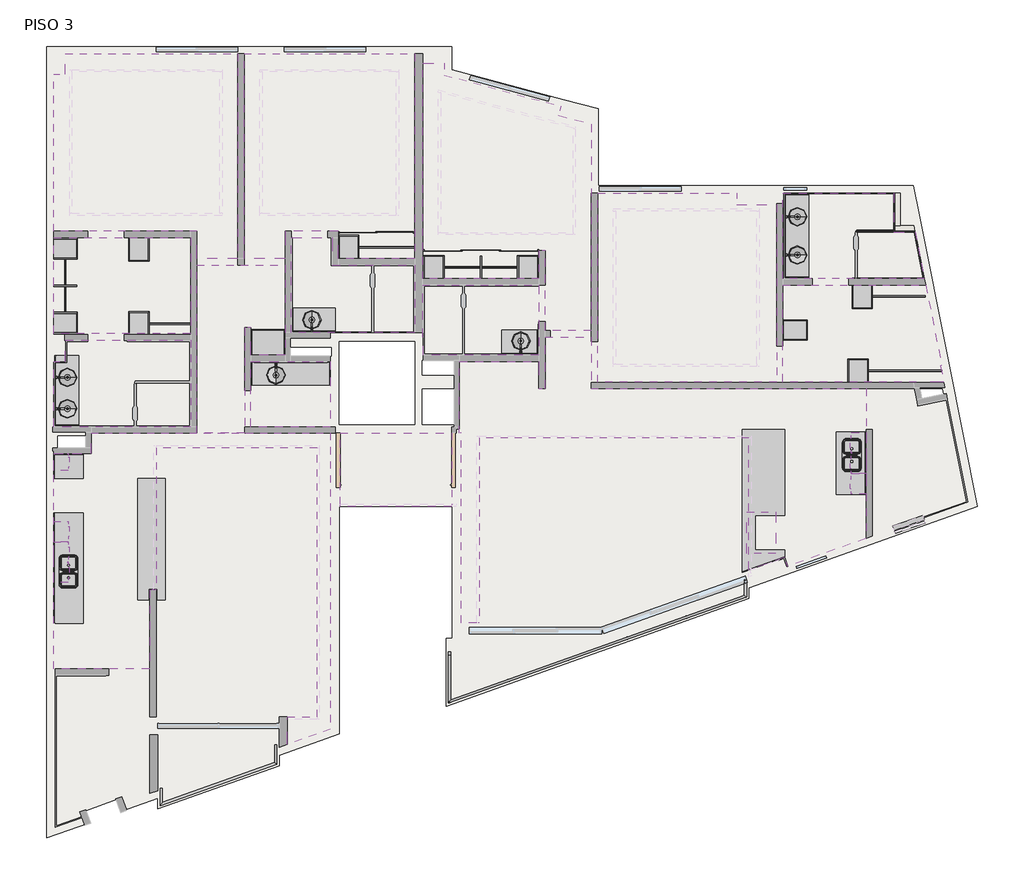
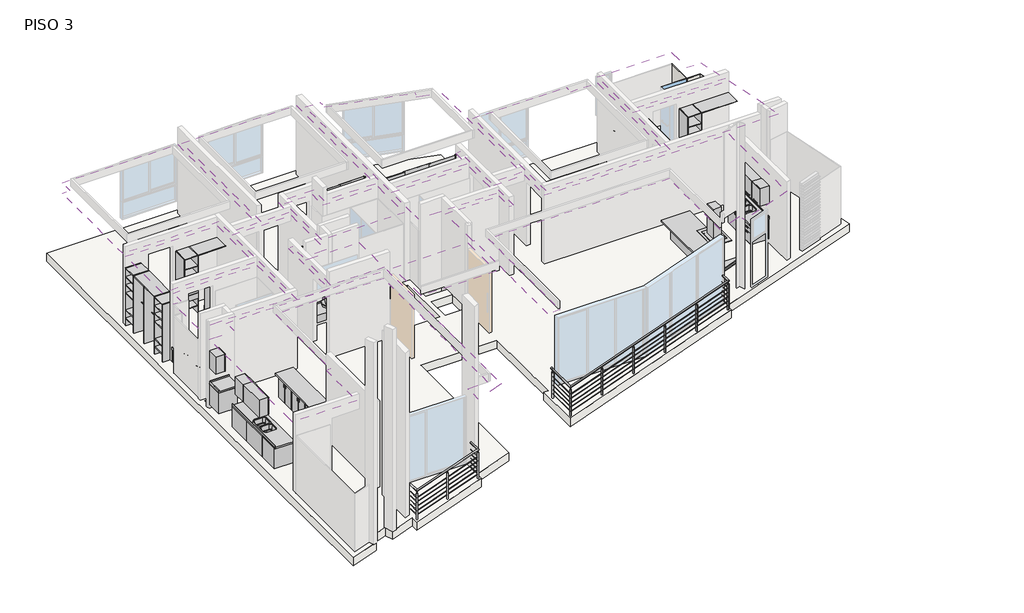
# One storey, part 3 of 3: 36 furniture elements, 17 flow terminals, 15 coverings, 7 walls, 2 railings, 1 proxy, 1 slab, 1 window.
"""IFC4 building model written with IfcOpenShell, lengths in millimetres."""

from ifc_helpers import new_model, si_unit, frame, origin, place, context, project, spatial, polyline, outline, extrude, faceted_brep, transform, mapped, element, save
from components import specialty_equipment_230eec82, flow_terminal_a2814962, flow_terminal_5cc0e8a1, flow_terminal_a7820e30, flow_terminal_68213279, flow_terminal_dbe0ad42, furniture_e49e34d4, furniture_d9654537, furniture_a8ddcfd3, furniture_af3adfe5, furniture_695d730f, furniture_6c499260, furniture_030b6b42, furniture_772ddd76, furniture_370_x_600_x_320_mm_8a8752ee, furniture_3900_mm_204c5ad0, furniture_450_x_600_x_320_mm_b980701e, furniture_450_x_600_x_320_mm_602578f4, furniture_550_mm_c334357f, furniture_620_mm_497b6e52, furniture_620_mm_84e951ed, furniture_680_mm_c6045463, furniture_7700_mm_prof_40_e6cee792, furniture_820_mm_546e8a10, furniture_900_mm_f7b05b38, furniture_900_x_600_x_320_mm_ed7ff752, furniture_900_x_600_x_320_mm_dd102760, cl05_4e4fac43, cl2_closet_fc385fcd, cl3_closet_a3c0aced, cl4_a_closet_81bb138c, cl4b_closet_0a5770e6, cl4c_closet_576a11e8, cl6a_closet_3e36db71, cl6b_closet_5e1df598, cl6c_closet_d8154fa9, cubierta6_cubierta_6109c4be, cubierta7_cubierta_ab978bd7, railing_f92ae113, railing_e85b9a55, window_608fdc28

model = new_model("IFC4")

# Units and contexts
model_context = context("Model", 3, world=origin())
ifc_project = project(units=[si_unit("LENGTHUNIT", "METRE", prefix="MILLI")], contexts=[model_context])

# Site, building, storey
site = spatial("IfcSite", under=ifc_project)
building = spatial("IfcBuilding", under=site)
storey = spatial("IfcBuildingStorey", under=building, Name="PISO 3", Elevation=9000.0)

# Proxy
placement = place(None, origin())
specialty_equipment_shape = specialty_equipment_230eec82(model_context)
element("IfcBuildingElementProxy", 1, Name="Campana rectangular - isla : Campana rectangular - isla", ObjectType="Campana rectangular - isla : Campana rectangular - isla", at=placement, inside=storey, context=model_context, shape_type="MappedRepresentation", body=[
    mapped(specialty_equipment_shape, transform((49717.8559119, 27525.7129416, 9250.0), x_axis=(0.0, 1.0, 0.0), y_axis=(-1.0, 0.0, 0.0), z_axis=(0.0, 0.0, 1.0))),
])

# Coverings
element("IfcCovering", 2, ObjectType="Plafond Tablaroca", at=placement, inside=storey, context=model_context, shape_type="SweptSolid", body=[
    extrude(outline(polyline([(34143.8589874, 34168.9785701), (34143.8589874, 37625.4026232), (34398.8589874, 37625.4026232), (34398.8589874, 38080.4026232), (38194.5300226, 38080.4026232), (38194.5300226, 33568.9784839), (37294.5300226, 33568.9784839), (37294.5300226, 34168.9785701), (34143.8589874, 34168.9785701)]), holes=[polyline([(34543.8589874, 34568.9785701), (37794.5300226, 34568.9785701), (37794.5300226, 37680.4026232), (34543.8589874, 37680.4026232), (34543.8589874, 34568.9785701)])]), frame((0.0, 0.0, 11400.0), z_axis=(0.0, 0.0, 1.0), x_axis=(1.0, 0.0, 0.0)), (0.0, 0.0, 1.0), 52.7),
])
element("IfcCovering", 3, ObjectType="Plafond Tablaroca", at=placement, inside=storey, context=model_context, shape_type="SweptSolid", body=[
    extrude(outline(polyline([(38334.5300226, 38080.4026232), (42084.5059119, 38080.4026232), (42084.5059119, 33568.9784839), (40409.5059119, 33568.9784839), (40409.5059119, 34168.9785701), (39234.5300226, 34168.9785701), (39234.5300226, 33568.9784839), (38334.5300226, 33568.9784839), (38334.5300226, 38080.4026232)]), holes=[polyline([(38734.5300226, 37680.4026232), (38734.5300226, 34568.9785701), (41684.5059119, 34568.9785701), (41684.5059119, 37680.4026232), (38734.5300226, 37680.4026232)])]), frame((0.0, 0.0, 11400.0), z_axis=(0.0, 0.0, 1.0), x_axis=(1.0, 0.0, 0.0)), (0.0, 0.0, 1.0), 52.7),
])
element("IfcCovering", 4, ObjectType="Plafond Tablaroca", at=placement, inside=storey, context=model_context, shape_type="SweptSolid", body=[
    extrude(outline(polyline([(34903.8589874, 29864.010184), (34143.8589874, 29864.010184), (34143.8589874, 31298.9733508), (34398.8589874, 31298.9733508), (34398.8589874, 31768.9733508), (37154.5300226, 31768.9733508), (37154.5300226, 29864.010184), (34903.8589874, 29864.010184)])), frame((0.0, 0.0, 11400.0), z_axis=(0.0, 0.0, 1.0), x_axis=(1.0, 0.0, 0.0)), (0.0, 0.0, 1.0), 52.7),
])
element("IfcCovering", 5, ObjectType="Plafond Tablaroca", at=placement, inside=storey, context=model_context, shape_type="SweptSolid", body=[
    extrude(outline(polyline([(37154.5300226, 31913.9733508), (34143.8589874, 31913.9733508), (34143.8589874, 34028.9785701), (37154.5300226, 34028.9785701), (37154.5300226, 31913.9733508)])), frame((0.0, 0.0, 11400.0), z_axis=(0.0, 0.0, 1.0), x_axis=(1.0, 0.0, 0.0)), (0.0, 0.0, 1.0), 52.7),
])
element("IfcCovering", 6, ObjectType="Plafond Tablaroca", at=placement, inside=storey, context=model_context, shape_type="SweptSolid", body=[
    extrude(outline(polyline([(42084.5059119, 31933.9733508), (40329.5059119, 31933.9733508), (39374.5300226, 31933.9733508), (39374.5300226, 34028.9785701), (40269.5059119, 34028.9785701), (40269.5059119, 33428.9784839), (42084.5059119, 33428.9784839), (42084.5059119, 31933.9733508)])), frame((0.0, 0.0, 11400.0), z_axis=(0.0, 0.0, 1.0), x_axis=(1.0, 0.0, 0.0)), (0.0, 0.0, 1.0), 52.7),
])
element("IfcCovering", 7, ObjectType="Plafond Tablaroca", at=placement, inside=storey, context=model_context, shape_type="SweptSolid", body=[
    extrude(outline(polyline([(39234.5300226, 33428.9784839), (39234.5300226, 31444.0104769), (38484.5059119, 31444.0104769), (38484.5059119, 32044.0104769), (38344.5059119, 32044.0104769), (38344.5059119, 29724.010184), (37294.5300226, 29724.010184), (37294.5300226, 33428.9784839), (39234.5300226, 33428.9784839)])), frame((0.0, 0.0, 11400.0), z_axis=(0.0, 0.0, 1.0), x_axis=(1.0, 0.0, 0.0)), (0.0, 0.0, 1.0), 52.7),
])
element("IfcCovering", 8, ObjectType="Plafond Tablaroca", at=placement, inside=storey, context=model_context, shape_type="SweptSolid", body=[
    extrude(outline(polyline([(40234.5059119, 31304.0104769), (40234.5059119, 29864.010184), (38484.5059119, 29864.010184), (38484.5059119, 31304.0104769), (39294.5300226, 31304.0104769), (40234.5059119, 31304.0104769)])), frame((0.0, 0.0, 11400.0), z_axis=(0.0, 0.0, 1.0), x_axis=(1.0, 0.0, 0.0)), (0.0, 0.0, 1.0), 52.7),
])
element("IfcCovering", 9, ObjectType="Plafond Tablaroca", at=placement, inside=storey, context=model_context, shape_type="Brep", body=[
    faceted_brep([(42899.5059119, 28111.0432167, 11452.7), (42899.5059119, 28163.7432167, 11452.7), (42899.5059119, 29724.010184, 11452.7), (40444.5059119, 29724.010184, 11452.7), (40444.5059119, 28163.7432167, 11452.7), (40444.5059119, 28111.0432167, 11452.7), (42899.5059119, 28111.0432167, 11400.0), (40444.5059119, 28111.0432167, 11400.0), (40444.5059119, 29724.010184, 11400.0), (42899.5059119, 29724.010184, 11400.0), (42899.5059119, 28163.7432167, 11400.0)], [[[0, 1, 2, 3, 4, 5]], [[6, 7, 8, 9, 10]], [[0, 5, 7, 6]], [[2, 1, 0, 6, 10, 9]], [[3, 2, 9, 8]], [[5, 4, 3, 8, 7]]]),
])
element("IfcCovering", 10, ObjectType="Plafond Tablaroca", at=placement, inside=storey, context=model_context, shape_type="SweptSolid", body=[
    extrude(outline(polyline([(45253.4028147, 36725.1514674), (45974.5059119, 36531.2471191), (45974.5059119, 35104.0104642), (45974.5059119, 31984.0100923), (44964.5251366, 31984.0100923), (44964.5251366, 33744.0113905), (44824.5251366, 33744.0113905), (44824.5251366, 33124.0113856), (42264.5059119, 33124.0113856), (42264.5059119, 37875.4026232), (42744.5059119, 37875.4026232), (42744.5059119, 37612.0750171), (45306.6362479, 36923.1191455), (45253.4028147, 36725.1514674)]), holes=[polyline([(42664.5059119, 37219.3779563), (42664.5059119, 34144.0113905), (45574.5059119, 34144.0113905), (45574.5059119, 36436.8800645), (42664.5059119, 37219.3779563)])]), frame((0.0, 0.0, 11400.0), z_axis=(0.0, 0.0, 1.0), x_axis=(1.0, 0.0, 0.0)), (0.0, 0.0, 1.0), 52.7),
])
element("IfcCovering", 11, ObjectType="Plafond Tablaroca", at=placement, inside=storey, context=model_context, shape_type="SweptSolid", body=[
    extrude(outline(polyline([(43014.5059119, 31444.0104755), (42279.5059119, 31444.0104755), (42279.5059119, 31838.9733508), (42264.5059119, 31838.9733508), (42264.5059119, 32984.0113856), (44824.5251366, 32984.0113856), (44824.5251366, 31444.0104755), (43014.5059119, 31444.0104755)])), frame((0.0, 0.0, 11400.0), z_axis=(0.0, 0.0, 1.0), x_axis=(1.0, 0.0, 0.0)), (0.0, 0.0, 1.0), 52.7),
])
element("IfcCovering", 12, ObjectType="Plafond Tablaroca", at=placement, inside=storey, context=model_context, shape_type="SweptSolid", body=[
    extrude(outline(polyline([(46114.5059119, 30844.0100923), (46114.5059119, 35014.0104642), (49179.4822189, 35014.0104642), (49179.4822189, 34759.0104642), (50054.4822189, 34759.0104642), (50054.4822189, 30844.0100923), (46114.5059119, 30844.0100923)]), holes=[polyline([(46514.5059119, 34614.0104642), (46514.5059119, 31244.0100923), (49621.7822189, 31244.0100923), (49621.7822189, 34614.0104642), (46514.5059119, 34614.0104642)])]), frame((0.0, 0.0, 11400.0), z_axis=(0.0, 0.0, 1.0), x_axis=(1.0, 0.0, 0.0)), (0.0, 0.0, 1.0), 52.7),
])
element("IfcCovering", 13, ObjectType="Plafond Tablaroca", at=placement, inside=storey, context=model_context, shape_type="SweptSolid", body=[
    extrude(outline(polyline([(52636.6303003, 35014.0104642), (52636.6303003, 34154.0104642), (53104.1193844, 34154.0104642), (53310.4167001, 33124.0113812), (50194.4822189, 33124.0113812), (50194.4822189, 35014.0104642), (52636.6303003, 35014.0104642)])), frame((0.0, 0.0, 11400.0), z_axis=(0.0, 0.0, 1.0), x_axis=(1.0, 0.0, 0.0)), (0.0, 0.0, 1.0), 52.7),
])
element("IfcCovering", 14, ObjectType="Plafond Tablaroca", at=placement, inside=storey, context=model_context, shape_type="SweptSolid", body=[
    extrude(outline(polyline([(50194.4822189, 32984.0113812), (53338.4571369, 32984.0113812), (53693.0464332, 31213.6216464), (53663.630648, 31207.7299931), (53736.479683, 30844.0100923), (53134.7162741, 30844.0100923), (50194.4822189, 30844.0100923), (50194.4822189, 32984.0113812)])), frame((0.0, 0.0, 11400.0), z_axis=(0.0, 0.0, 1.0), x_axis=(1.0, 0.0, 0.0)), (0.0, 0.0, 1.0), 52.7),
])
element("IfcCovering", 15, ObjectType="Plafond Tablaroca", at=placement, inside=storey, context=model_context, shape_type="Brep", body=[
    faceted_brep([(49444.5059119, 29611.2733508, 11452.7), (49444.5059119, 26734.010184, 11452.7), (49444.5059119, 26708.0401696, 11452.7), (50230.4085675, 26988.0993789, 11452.7), (50300.9007209, 26790.2841715, 11452.7), (52024.4822189, 27404.4885747, 11452.7), (52024.4822189, 30704.0100923, 11452.7), (45974.5059119, 30704.0100923, 11452.7), (45974.5059119, 31844.0100923, 11452.7), (44964.5251366, 31844.0100923, 11452.7), (44964.5251366, 30704.0100923, 11452.7), (44824.5251366, 30704.0100923, 11452.7), (44824.5251366, 31304.0104755, 11452.7), (43074.5059119, 31304.0104755, 11452.7), (43074.5059119, 29724.010184, 11452.7), (43109.5059119, 29724.010184, 11452.7), (43109.5059119, 25545.2541962, 11452.7), (43456.8059119, 25545.2541962, 11452.7), (43509.5059119, 25545.2541962, 11452.7), (43509.5059119, 29611.2733508, 11452.7), (49444.5059119, 29611.2733508, 11400.0), (43509.5059119, 29611.2733508, 11400.0), (43509.5059119, 25545.2541962, 11400.0), (43109.5059119, 25545.2541962, 11400.0), (43109.5059119, 29724.010184, 11400.0), (43074.5059119, 29724.010184, 11400.0), (43074.5059119, 31304.0104755, 11400.0), (44824.5251366, 31304.0104755, 11400.0), (44824.5251366, 30704.0100923, 11400.0), (44964.5251366, 30704.0100923, 11400.0), (44964.5251366, 31844.0100923, 11400.0), (45974.5059119, 31844.0100923, 11400.0), (45974.5059119, 30704.0100923, 11400.0), (52024.4822189, 30704.0100923, 11400.0), (52024.4822189, 27404.4885747, 11400.0), (50300.9007209, 26790.2841715, 11400.0), (50230.4085675, 26988.0993789, 11400.0), (49444.5059119, 26708.0401696, 11400.0)], [[[0, 1, 2, 3, 4, 5, 6, 7, 8, 9, 10, 11, 12, 13, 14, 15, 16, 17, 18, 19]], [[20, 21, 22, 23, 24, 25, 26, 27, 28, 29, 30, 31, 32, 33, 34, 35, 36, 37]], [[0, 19, 21, 20]], [[2, 1, 0, 20, 37]], [[3, 2, 37, 36]], [[4, 3, 36, 35]], [[5, 4, 35, 34]], [[6, 5, 34, 33]], [[7, 6, 33, 32]], [[8, 7, 32, 31]], [[9, 8, 31, 30]], [[13, 12, 27, 26]], [[16, 15, 24, 23]], [[18, 17, 16, 23, 22]], [[19, 18, 22, 21]], [[10, 9, 30, 29]], [[11, 10, 29, 28]], [[12, 11, 28, 27]], [[14, 13, 26, 25]], [[15, 14, 25, 24]]]),
])
element("IfcCovering", 16, ObjectType="Plafond Tablaroca", at=placement, inside=storey, context=model_context, shape_type="Brep", body=[
    faceted_brep([(34963.8589874, 29274.010184, 11452.7), (34143.8589874, 29274.010184, 11452.7), (34143.8589874, 25532.4819737, 11452.7), (34143.8589874, 24532.4819685, 11452.7), (36254.5300226, 24532.4819685, 11452.7), (36254.5300226, 26269.0176189, 11452.7), (36341.8300226, 26269.0176189, 11452.7), (36394.5300226, 26269.0176189, 11452.7), (36394.5300226, 29394.010184, 11452.7), (39939.5059119, 29394.010184, 11452.7), (39939.5059119, 23470.9402233, 11452.7), (39284.5057602, 23470.9402233, 11452.7), (39284.5057602, 23418.2402233, 11452.7), (39284.5057602, 22864.5526055, 11452.7), (40234.5059119, 23203.0885419, 11452.7), (40234.5059119, 29724.010184, 11452.7), (34963.8589874, 29724.010184, 11452.7), (34963.8589874, 29274.010184, 11400.0), (34963.8589874, 29724.010184, 11400.0), (40234.5059119, 29724.010184, 11400.0), (40234.5059119, 23203.0885419, 11400.0), (39284.5057602, 22864.5526055, 11400.0), (39284.5057602, 23418.2402233, 11400.0), (39284.5057602, 23470.9402233, 11400.0), (39939.5059119, 23470.9402233, 11400.0), (39939.5059119, 29394.010184, 11400.0), (36394.5300226, 29394.010184, 11400.0), (36394.5300226, 26269.0176189, 11400.0), (36254.5300226, 26269.0176189, 11400.0), (36254.5300226, 24532.4819685, 11400.0), (34143.8589874, 24532.4819685, 11400.0), (34143.8589874, 25532.4819737, 11400.0), (34143.8589874, 29274.010184, 11400.0)], [[[0, 1, 2, 3, 4, 5, 6, 7, 8, 9, 10, 11, 12, 13, 14, 15, 16]], [[17, 18, 19, 20, 21, 22, 23, 24, 25, 26, 27, 28, 29, 30, 31, 32]], [[1, 0, 17, 32]], [[2, 1, 32, 31]], [[3, 2, 31, 30]], [[4, 3, 30, 29]], [[5, 4, 29, 28]], [[7, 6, 5, 28, 27]], [[8, 7, 27, 26]], [[9, 8, 26, 25]], [[10, 9, 25, 24]], [[11, 10, 24, 23]], [[12, 11, 23, 22]], [[13, 12, 22, 21]], [[14, 13, 21, 20]], [[15, 14, 20, 19]], [[16, 15, 19, 18]], [[0, 16, 18, 17]]]),
])

# Flow terminals
flow_terminal_shape = flow_terminal_a2814962(model_context)
element("IfcFlowTerminal", 17, ObjectType="Ovalin sobreponer maia - vitromex : Accesorios_baño", at=placement, inside=storey, context=model_context, shape_type="MappedRepresentation", body=[
    mapped(flow_terminal_shape, transform((34443.8589874, 30260.983502, 9000.0), x_axis=(1.0, 0.0, 0.0), y_axis=(0.0, 1.0, 0.0), z_axis=(0.0, 0.0, 1.0))),
])
element("IfcFlowTerminal", 18, ObjectType="Ovalin sobreponer maia - vitromex : Accesorios_baño", at=placement, inside=storey, context=model_context, shape_type="MappedRepresentation", body=[
    mapped(flow_terminal_shape, transform((39824.5300226, 32218.9733508, 9000.0), x_axis=(0.0, 1.0, 0.0), y_axis=(-1.0, 0.0, 0.0), z_axis=(0.0, 0.0, 1.0))),
])
element("IfcFlowTerminal", 19, ObjectType="Ovalin sobreponer maia - vitromex : Accesorios_baño", at=placement, inside=storey, context=model_context, shape_type="MappedRepresentation", body=[
    mapped(flow_terminal_shape, transform((44424.5034689, 31754.0104755, 9000.0), x_axis=(0.0, 1.0, 0.0), y_axis=(-1.0, 0.0, 0.0), z_axis=(0.0, 0.0, 1.0))),
])
element("IfcFlowTerminal", 20, ObjectType="Ovalin sobreponer maia - vitromex : Accesorios_baño", at=placement, inside=storey, context=model_context, shape_type="MappedRepresentation", body=[
    mapped(flow_terminal_shape, transform((50514.4822189, 33648.5026573, 9000.0), x_axis=(1.0, 0.0, 0.0), y_axis=(0.0, 1.0, 0.0), z_axis=(0.0, 0.0, 1.0))),
])
flow_terminal_2_shape = flow_terminal_5cc0e8a1(model_context)
element("IfcFlowTerminal", 21, ObjectType="monomando lavabo - tubo : monomando lavabo - tubo", at=placement, inside=storey, context=model_context, shape_type="MappedRepresentation", body=[
    mapped(flow_terminal_2_shape, transform((34203.8589874, 30260.983502, 9000.0), x_axis=(0.0, 1.0, 0.0), y_axis=(-1.0, 0.0, 0.0), z_axis=(0.0, 0.0, 1.0))),
])
element("IfcFlowTerminal", 22, ObjectType="monomando lavabo - tubo : monomando lavabo - tubo", at=placement, inside=storey, context=model_context, shape_type="MappedRepresentation", body=[
    mapped(flow_terminal_2_shape, transform((39824.5300226, 31978.9733508, 9000.0), x_axis=(-1.0, 0.0, 0.0), y_axis=(0.0, -1.0, 0.0), z_axis=(0.0, 0.0, 1.0))),
])
element("IfcFlowTerminal", 23, ObjectType="monomando lavabo - tubo : monomando lavabo - tubo", at=placement, inside=storey, context=model_context, shape_type="MappedRepresentation", body=[
    mapped(flow_terminal_2_shape, transform((44424.5034689, 31514.0104755, 9000.0), x_axis=(-1.0, 0.0, 0.0), y_axis=(0.0, -1.0, 0.0), z_axis=(0.0, 0.0, 1.0))),
])
element("IfcFlowTerminal", 24, ObjectType="monomando lavabo - tubo : monomando lavabo - tubo", at=placement, inside=storey, context=model_context, shape_type="MappedRepresentation", body=[
    mapped(flow_terminal_2_shape, transform((50274.4822189, 33648.5026573, 9000.0), x_axis=(0.0, 1.0, 0.0), y_axis=(-1.0, 0.0, 0.0), z_axis=(0.0, 0.0, 1.0))),
])
flow_terminal_3_shape = flow_terminal_a7820e30(model_context)
element("IfcFlowTerminal", 25, ObjectType="monomando lavabo - tubo : monomando lavabo - tubo", at=placement, inside=storey, context=model_context, shape_type="MappedRepresentation", body=[
    mapped(flow_terminal_3_shape, transform((34203.8589874, 30952.0000328, 9000.0), x_axis=(0.0, -1.0, 0.0), y_axis=(1.0, 0.0, 0.0), z_axis=(0.0, 0.0, 1.0))),
])
element("IfcFlowTerminal", 26, ObjectType="monomando lavabo - tubo : monomando lavabo - tubo", at=placement, inside=storey, context=model_context, shape_type="MappedRepresentation", body=[
    mapped(flow_terminal_3_shape, transform((39034.5059119, 31241.9733508, 9000.0), x_axis=(-1.0, 0.0, 0.0), y_axis=(0.0, -1.0, 0.0), z_axis=(0.0, 0.0, 1.0))),
])
element("IfcFlowTerminal", 27, ObjectType="monomando lavabo - tubo : monomando lavabo - tubo", at=placement, inside=storey, context=model_context, shape_type="MappedRepresentation", body=[
    mapped(flow_terminal_3_shape, transform((50274.4822189, 34489.5191881, 9000.0), x_axis=(0.0, -1.0, 0.0), y_axis=(1.0, 0.0, 0.0), z_axis=(0.0, 0.0, 1.0))),
])
flow_terminal_4_shape = flow_terminal_68213279(model_context)
element("IfcFlowTerminal", 28, ObjectType="Ovalin sobreponer maia - vitromex : Accesorios_baño", at=placement, inside=storey, context=model_context, shape_type="MappedRepresentation", body=[
    mapped(flow_terminal_4_shape, transform((34443.8589874, 30952.0000328, 9000.0), x_axis=(1.0, 0.0, 0.0), y_axis=(0.0, 1.0, 0.0), z_axis=(0.0, 0.0, 1.0))),
])
element("IfcFlowTerminal", 29, ObjectType="Ovalin sobreponer maia - vitromex : Accesorios_baño", at=placement, inside=storey, context=model_context, shape_type="MappedRepresentation", body=[
    mapped(flow_terminal_4_shape, transform((39034.5059119, 31001.9733508, 9000.0), x_axis=(0.0, -1.0, 0.0), y_axis=(1.0, 0.0, 0.0), z_axis=(0.0, 0.0, 1.0))),
])
element("IfcFlowTerminal", 30, ObjectType="Ovalin sobreponer maia - vitromex : Accesorios_baño", at=placement, inside=storey, context=model_context, shape_type="MappedRepresentation", body=[
    mapped(flow_terminal_4_shape, transform((50514.4822189, 34489.5191881, 9000.0), x_axis=(1.0, 0.0, 0.0), y_axis=(0.0, 1.0, 0.0), z_axis=(0.0, 0.0, 1.0))),
])
flow_terminal_5_shape = flow_terminal_dbe0ad42(model_context)
element("IfcFlowTerminal", 31, ObjectType="Tarja Teka subm BE 780 : TARJA PARA COCINA", at=placement, inside=storey, context=model_context, shape_type="MappedRepresentation", body=[
    mapped(flow_terminal_5_shape, transform((51691.6368177, 29295.5424593, 8962.9), x_axis=(0.0, -1.0, 0.0), y_axis=(1.0, 0.0, 0.0), z_axis=(0.0, 0.0, 1.0))),
])
element("IfcFlowTerminal", 32, ObjectType="Tarja Teka subm BE 780 : TARJA PARA COCINA", at=placement, inside=storey, context=model_context, shape_type="MappedRepresentation", body=[
    mapped(flow_terminal_5_shape, transform((51691.6368177, 29295.5424593, 8962.9), x_axis=(0.0, -1.0, 0.0), y_axis=(1.0, 0.0, 0.0), z_axis=(0.0, 0.0, 1.0))),
])
element("IfcFlowTerminal", 33, ObjectType="Tarja Teka subm BE 780 : TARJA PARA COCINA", at=placement, inside=storey, context=model_context, shape_type="MappedRepresentation", body=[
    mapped(flow_terminal_5_shape, transform((34489.2043886, 26620.3209435, 8962.9), x_axis=(0.0, 1.0000000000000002, 0.0), y_axis=(-1.0000000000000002, 0.0, 0.0), z_axis=(0.0, 0.0, 1.0))),
])

# Furniture
furniture_shape = furniture_e49e34d4(model_context)
element("IfcFurniture", 34, ObjectType="ajuste mueble - esquinas8 : ajuste mueble - esquinas", at=placement, inside=storey, context=model_context, shape_type="MappedRepresentation", body=[
    mapped(furniture_shape, transform((81275.8064612, -6969.2760266, 0.0), x_axis=(0.0, 1.0, 0.0), y_axis=(-1.0, 0.0, 0.0), z_axis=(0.0, 0.0, 1.0))),
])
furniture_2_shape = furniture_d9654537(model_context)
element("IfcFurniture", 35, ObjectType="Mueble con faldon sin cajones - lavabo sobreponer : MB8-mueble baño colgado- 1.75cm", at=placement, inside=storey, context=model_context, shape_type="MappedRepresentation", body=[
    mapped(furniture_2_shape, transform((39484.5059119, 31364.0104769, 9000.0), x_axis=(-1.0, 0.0, 0.0), y_axis=(0.0, -1.0, 0.0), z_axis=(0.0, 0.0, 1.0))),
])
furniture_3_shape = furniture_a8ddcfd3(model_context)
element("IfcFurniture", 36, ObjectType="Puerta Closet corre 3 hojas : Puerta corrdiza 3 hojas PCL-02", at=placement, inside=storey, context=model_context, shape_type="MappedRepresentation", body=[
    mapped(furniture_3_shape, transform((43554.5251366, 33644.0113856, 9000.0), x_axis=(1.0, 0.0, 0.0), y_axis=(0.0, 1.0, 0.0), z_axis=(0.0, 0.0, 1.0))),
])
furniture_4_shape = furniture_af3adfe5(model_context)
element("IfcFurniture", 37, ObjectType="Puerta Closet corre 2 hojas : Puerta corrdiza 2 hojas", at=placement, inside=storey, context=model_context, shape_type="MappedRepresentation", body=[
    mapped(furniture_4_shape, transform((41784.5059119, 34048.9785701, 9000.0), x_axis=(1.0, 0.0, 0.0), y_axis=(0.0, 1.0, 0.0), z_axis=(0.0, 0.0, 1.0))),
])
furniture_5_shape = furniture_695d730f(model_context)
element("IfcFurniture", 38, ObjectType="Mueble colgado 1 cajon - lavabo sobreponer : MB4-mueble baño colgado-1 cajon 80 cm", at=placement, inside=storey, context=model_context, shape_type="MappedRepresentation", body=[
    mapped(furniture_5_shape, transform((44279.5251366, 31454.0104754, 9000.0), x_axis=(1.0, 0.0, 0.0), y_axis=(0.0, 1.0, 0.0), z_axis=(0.0, 0.0, 1.0))),
])
furniture_6_shape = furniture_6c499260(model_context)
element("IfcFurniture", 39, ObjectType="Mueble colgado 1 cajon - lavabo sobreponer : MB1-mueble baño colgado-1 cajon - 90cm", at=placement, inside=storey, context=model_context, shape_type="MappedRepresentation", body=[
    mapped(furniture_6_shape, transform((39744.5300226, 31943.9733508, 9000.0), x_axis=(1.0, 0.0, 0.0), y_axis=(0.0, 1.0, 0.0), z_axis=(0.0, 0.0, 1.0))),
])
furniture_7_shape = furniture_030b6b42(model_context)
element("IfcFurniture", 40, ObjectType="Mueble colgado 2 cajones al lado - lavabo sobreponer : MB2-mueble baño colgado-2 cajones al lado 150", at=placement, inside=storey, context=model_context, shape_type="MappedRepresentation", body=[
    mapped(furniture_7_shape, transform((34153.8589874, 30784.010184, 9000.0), x_axis=(0.0, -1.0, 0.0), y_axis=(1.0, 0.0, 0.0), z_axis=(0.0, 0.0, 1.0))),
])
furniture_8_shape = furniture_772ddd76(model_context)
element("IfcFurniture", 41, ObjectType="Mueble colgado 2 cajones al lado - lavabo sobreponer : MB3-mueble baño colgado-2 cajones al lado 185", at=placement, inside=storey, context=model_context, shape_type="MappedRepresentation", body=[
    mapped(furniture_8_shape, transform((50224.4822189, 34194.0104642, 9000.0), x_axis=(0.0, -1.0, 0.0), y_axis=(1.0, 0.0, 0.0), z_axis=(0.0, 0.0, 1.0))),
])
furniture_370_x_600_x_320_mm_shape = furniture_370_x_600_x_320_mm_8a8752ee(model_context)
element("IfcFurniture", 42, ObjectType="Armario superior - Puerta simple : 370 x 600 x 320 mm", at=placement, inside=storey, context=model_context, shape_type="MappedRepresentation", body=[
    mapped(furniture_370_x_600_x_320_mm_shape, transform((34053.8589874, 28914.010184, 9000.0), x_axis=(0.0, 1.0, 0.0), y_axis=(-1.0, 0.0, 0.0), z_axis=(0.0, 0.0, 1.0))),
])
furniture_3900_mm_shape = furniture_3900_mm_204c5ad0(model_context)
element("IfcFurniture", 43, ObjectType="Armario 3 cajones : 3900 mm", at=placement, inside=storey, context=model_context, shape_type="MappedRepresentation", body=[
    mapped(furniture_3900_mm_shape, transform((52024.4822189, 28613.0909236, 9000.0), x_axis=(0.0, -1.0, 0.0), y_axis=(1.0, 0.0, 0.0), z_axis=(0.0, 0.0, 1.0))),
])
furniture_450_x_600_x_320_mm_shape = furniture_450_x_600_x_320_mm_b980701e(model_context)
element("IfcFurniture", 44, ObjectType="Armario superior - Puerta simple : 450 x 600 x 320 mm", at=placement, inside=storey, context=model_context, shape_type="MappedRepresentation", body=[
    mapped(furniture_450_x_600_x_320_mm_shape, transform((52094.4822189, 28434.010184, 9000.0), x_axis=(0.0, 1.0, 0.0), y_axis=(-1.0, 0.0, 0.0), z_axis=(0.0, 0.0, 1.0))),
])
furniture_450_x_600_x_320_mm_2_shape = furniture_450_x_600_x_320_mm_602578f4(model_context)
element("IfcFurniture", 45, ObjectType="Armario superior - Puerta simple : 450 x 600 x 320 mm", at=placement, inside=storey, context=model_context, shape_type="MappedRepresentation", body=[
    mapped(furniture_450_x_600_x_320_mm_2_shape, transform((34053.8589874, 27732.4819737, 9000.0), x_axis=(0.0, -1.0, 0.0), y_axis=(1.0, 0.0, 0.0), z_axis=(0.0, 0.0, 1.0))),
])
furniture_550_mm_shape = furniture_550_mm_c334357f(model_context)
element("IfcFurniture", 46, ObjectType="Armario-Una puerta : 550 mm", at=placement, inside=storey, context=model_context, shape_type="MappedRepresentation", body=[
    mapped(furniture_550_mm_shape, transform((34143.8589874, 29017.7478889, 9000.0), x_axis=(0.0, -1.0, 0.0), y_axis=(1.0, 0.0, 0.0), z_axis=(0.0, 0.0, 1.0))),
])
furniture_620_mm_shape = furniture_620_mm_497b6e52(model_context)
element("IfcFurniture", 47, ObjectType="Armario-Una puerta : 620 mm", at=placement, inside=storey, context=model_context, shape_type="MappedRepresentation", body=[
    mapped(furniture_620_mm_shape, transform((49604.5059119, 28205.2724791, 9000.0), x_axis=(0.0, 1.0, 0.0), y_axis=(-1.0, 0.0, 0.0), z_axis=(0.0, 0.0, 1.0))),
])
furniture_620_mm_2_shape = furniture_620_mm_84e951ed(model_context)
element("IfcFurniture", 48, ObjectType="Armario-Una puerta : 620 mm", at=placement, inside=storey, context=model_context, shape_type="MappedRepresentation", body=[
    mapped(furniture_620_mm_2_shape, transform((49604.5059119, 28862.7478889, 9000.0), x_axis=(0.0, -1.0, 0.0), y_axis=(1.0, 0.0, 0.0), z_axis=(0.0, 0.0, 1.0))),
])
element("IfcFurniture", 49, ObjectType="Armario-Una puerta : 620 mm", at=placement, inside=storey, context=model_context, shape_type="MappedRepresentation", body=[
    mapped(furniture_620_mm_2_shape, transform((49604.5059119, 29482.7478889, 9000.0), x_axis=(0.0, -1.0, 0.0), y_axis=(1.0, 0.0, 0.0), z_axis=(0.0, 0.0, 1.0))),
])
furniture_680_mm_shape = furniture_680_mm_c6045463(model_context)
element("IfcFurniture", 50, ObjectType="Armario 3 cajones : 680 mm", at=placement, inside=storey, context=model_context, shape_type="MappedRepresentation", body=[
    mapped(furniture_680_mm_shape, transform((34143.8589874, 25922.7478889, 9000.0), x_axis=(0.0, -1.0, 0.0), y_axis=(1.0, 0.0, 0.0), z_axis=(0.0, 0.0, 1.0))),
])
furniture_7700_mm_prof_40_shape = furniture_7700_mm_prof_40_e6cee792(model_context)
element("IfcFurniture", 51, ObjectType="Armario-Puerta doble Unidad de fregadero : 7700 mm - prof 40", at=placement, inside=storey, context=model_context, shape_type="MappedRepresentation", body=[
    mapped(furniture_7700_mm_prof_40_shape, transform((36423.8589874, 26672.7553238, 9000.0), x_axis=(0.0, -1.0, 0.0), y_axis=(1.0, 0.0, 0.0), z_axis=(0.0, 0.0, 1.0))),
])
element("IfcFurniture", 52, ObjectType="Armario-Puerta doble Unidad de fregadero : 7700 mm - prof 40", at=placement, inside=storey, context=model_context, shape_type="MappedRepresentation", body=[
    mapped(furniture_7700_mm_prof_40_shape, transform((36423.8589874, 27442.7553238, 9000.0), x_axis=(0.0, -1.0, 0.0), y_axis=(1.0, 0.0, 0.0), z_axis=(0.0, 0.0, 1.0))),
])
element("IfcFurniture", 53, ObjectType="Armario-Puerta doble Unidad de fregadero : 7700 mm - prof 40", at=placement, inside=storey, context=model_context, shape_type="MappedRepresentation", body=[
    mapped(furniture_7700_mm_prof_40_shape, transform((36423.8589874, 28212.7553238, 9000.0), x_axis=(0.0, -1.0, 0.0), y_axis=(1.0, 0.0, 0.0), z_axis=(0.0, 0.0, 1.0))),
])
furniture_820_mm_shape = furniture_820_mm_546e8a10(model_context)
element("IfcFurniture", 54, ObjectType="Armario-Puerta doble Unidad de fregadero : 820 mm", at=placement, inside=storey, context=model_context, shape_type="MappedRepresentation", body=[
    mapped(furniture_820_mm_shape, transform((34143.8589874, 27535.2724791, 9000.0), x_axis=(0.0, 1.0, 0.0), y_axis=(-1.0, 0.0, 0.0), z_axis=(0.0, 0.0, 1.0))),
])
furniture_900_mm_shape = furniture_900_mm_f7b05b38(model_context)
element("IfcFurniture", 55, ObjectType="Armario-Puerta doble Unidad de fregadero : 900 mm", at=placement, inside=storey, context=model_context, shape_type="MappedRepresentation", body=[
    mapped(furniture_900_mm_shape, transform((52024.4822189, 29258.0909236, 9000.0), x_axis=(0.0, -1.0, 0.0), y_axis=(1.0, 0.0, 0.0), z_axis=(0.0, 0.0, 1.0))),
])
element("IfcFurniture", 56, ObjectType="Armario-Puerta doble Unidad de fregadero : 900 mm", at=placement, inside=storey, context=model_context, shape_type="MappedRepresentation", body=[
    mapped(furniture_900_mm_shape, transform((34143.8589874, 26675.2724791, 9000.0), x_axis=(0.0, 1.0, 0.0), y_axis=(-1.0, 0.0, 0.0), z_axis=(0.0, 0.0, 1.0))),
])
furniture_900_x_600_x_320_mm_shape = furniture_900_x_600_x_320_mm_ed7ff752(model_context)
element("IfcFurniture", 57, ObjectType="Armario superior - Puerta doble : 900 x 600 x 320 mm", at=placement, inside=storey, context=model_context, shape_type="MappedRepresentation", body=[
    mapped(furniture_900_x_600_x_320_mm_shape, transform((52094.4822189, 29109.010184, 9000.0), x_axis=(0.0, 1.0, 0.0), y_axis=(-1.0, 0.0, 0.0), z_axis=(0.0, 0.0, 1.0))),
])
furniture_900_x_600_x_320_mm_2_shape = furniture_900_x_600_x_320_mm_dd102760(model_context)
element("IfcFurniture", 58, ObjectType="Armario superior - Puerta doble : 900 x 600 x 320 mm", at=placement, inside=storey, context=model_context, shape_type="MappedRepresentation", body=[
    mapped(furniture_900_x_600_x_320_mm_2_shape, transform((34053.8589874, 27057.4819737, 9000.0), x_axis=(0.0, -1.0, 0.0), y_axis=(1.0, 0.0, 0.0), z_axis=(0.0, 0.0, 1.0))),
])
cl05_shape = cl05_4e4fac43(model_context)
element("IfcFurniture", 59, ObjectType="Closet 5cajones-inf_2puertas-sup : CL05", at=placement, inside=storey, context=model_context, shape_type="MappedRepresentation", body=[
    mapped(cl05_shape, transform((38859.5300226, 32044.0104769, 9000.0), x_axis=(-1.0, 0.0, 0.0), y_axis=(0.0, -1.0, 0.0), z_axis=(0.0, 0.0, 1.0))),
])
cl2_closet_shape = cl2_closet_fc385fcd(model_context)
element("IfcFurniture", 60, ObjectType="Closet 2estantes-2tubos-centro_sin lateral : CL2-CLOSET", at=placement, inside=storey, context=model_context, shape_type="MappedRepresentation", body=[
    mapped(cl2_closet_shape, transform((42505.9004032, 33724.0113856, 9000.0), x_axis=(-1.0, 0.0, 0.0), y_axis=(0.0, -1.0, 0.0), z_axis=(0.0, 0.0, 1.0))),
])
cl3_closet_shape = cl3_closet_a3c0aced(model_context)
element("IfcFurniture", 61, ObjectType="Closet 1estantes-1tubos_sin laterales : CL3-CLOSET", at=placement, inside=storey, context=model_context, shape_type="MappedRepresentation", body=[
    mapped(cl3_closet_shape, transform((40634.5059119, 34168.9784839, 9000.0), x_axis=(-1.0, 0.0, 0.0), y_axis=(0.0, -1.0, 0.0), z_axis=(0.0, 0.0, 1.0))),
])
cl4_a_closet_shape = cl4_a_closet_81bb138c(model_context)
element("IfcFurniture", 62, ObjectType="Closet 2estantes-2tubos-centro_sin lateral : CL4-a CLOSET", at=placement, inside=storey, context=model_context, shape_type="MappedRepresentation", body=[
    mapped(cl4_a_closet_shape, transform((34743.8589874, 33792.5980843, 9000.0), x_axis=(0.0, 1.0, 0.0), y_axis=(-1.0, 0.0, 0.0), z_axis=(0.0, 0.0, 1.0))),
])
cl4b_closet_shape = cl4b_closet_0a5770e6(model_context)
element("IfcFurniture", 63, ObjectType="Closet 1estantes-1tubos_sin laterales : CL4b-CLOSET", at=placement, inside=storey, context=model_context, shape_type="MappedRepresentation", body=[
    mapped(cl4b_closet_shape, transform((36014.5300226, 33428.9785701, 9000.0), x_axis=(-1.0, 0.0, 0.0), y_axis=(0.0, -1.0, 0.0), z_axis=(0.0, 0.0, 1.0))),
])
cl4c_closet_shape = cl4c_closet_576a11e8(model_context)
element("IfcFurniture", 64, ObjectType="Closet 1estantes-1tubos_sin laterales : CL4c-CLOSET", at=placement, inside=storey, context=model_context, shape_type="MappedRepresentation", body=[
    mapped(cl4c_closet_shape, transform((36014.5300226, 32482.5928649, 9000.0), x_axis=(-1.0, 0.0, 0.0), y_axis=(0.0, -1.0, 0.0), z_axis=(0.0, 0.0, 1.0))),
])
cl6a_closet_shape = cl6a_closet_3e36db71(model_context)
element("IfcFurniture", 65, ObjectType="Closet 1estantes-1tubos_sin laterales : CL6a-CLOSET", at=placement, inside=storey, context=model_context, shape_type="MappedRepresentation", body=[
    mapped(cl6a_closet_shape, transform((50814.4822189, 31994.0113812, 9000.0), x_axis=(0.0, -1.0000000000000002, 0.0), y_axis=(1.0000000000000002, 0.0, 0.0), z_axis=(0.0, 0.0, 1.0))),
])
cl6b_closet_shape = cl6b_closet_5e1df598(model_context)
element("IfcFurniture", 66, ObjectType="Closet 1estantes-1tubos_sin laterales : CL6b-CLOSET", at=placement, inside=storey, context=model_context, shape_type="MappedRepresentation", body=[
    mapped(cl6b_closet_shape, transform((51941.9822189, 32384.0113812, 9000.0), x_axis=(-1.0, 0.0, 0.0), y_axis=(0.0, -1.0, 0.0), z_axis=(0.0, 0.0, 1.0))),
])
cl6c_closet_shape = cl6c_closet_d8154fa9(model_context)
element("IfcFurniture", 67, ObjectType="Closet 1estantes-1tubos_sin laterales : CL6c-CLOSET", at=placement, inside=storey, context=model_context, shape_type="MappedRepresentation", body=[
    mapped(cl6c_closet_shape, transform((51851.9822189, 31444.0100923, 9000.0), x_axis=(-1.0, 0.0, 0.0), y_axis=(0.0, -1.0, 0.0), z_axis=(0.0, 0.0, 1.0))),
])
cubierta6_cubierta_shape = cubierta6_cubierta_6109c4be(model_context)
element("IfcFurniture", 68, ObjectType="Cubierta6 : Cubierta", at=placement, inside=storey, context=model_context, shape_type="MappedRepresentation", body=[
    mapped(cubierta6_cubierta_shape, transform((0.0, 0.0, 0.0), x_axis=(1.0, 0.0, 0.0), y_axis=(0.0, 1.0, 0.0), z_axis=(0.0, 0.0, 1.0))),
])
cubierta7_cubierta_shape = cubierta7_cubierta_ab978bd7(model_context)
element("IfcFurniture", 69, ObjectType="Cubierta7 : Cubierta", at=placement, inside=storey, context=model_context, shape_type="MappedRepresentation", body=[
    mapped(cubierta7_cubierta_shape, transform((0.0, 0.0, 0.0), x_axis=(1.0, 0.0, 0.0), y_axis=(0.0, 1.0, 0.0), z_axis=(0.0, 0.0, 1.0))),
])

# Railings
railing_shape = railing_f92ae113(model_context)
element("IfcRailing", 70, ObjectType="Barandal general", at=placement, inside=storey, context=model_context, shape_type="MappedRepresentation", body=[
    mapped(railing_shape, transform((0.0, 0.0, 0.0), x_axis=(1.0, 0.0, 0.0), y_axis=(0.0, 1.0, 0.0), z_axis=(0.0, 0.0, 1.0))),
])
railing_2_shape = railing_e85b9a55(model_context)
element("IfcRailing", 71, ObjectType="Barandal general 2 sin inicio", at=placement, inside=storey, context=model_context, shape_type="MappedRepresentation", body=[
    mapped(railing_2_shape, transform((0.0, 0.0, 0.0), x_axis=(1.0, 0.0, 0.0), y_axis=(0.0, 1.0, 0.0), z_axis=(0.0, 0.0, 1.0))),
])

# Slab
element("IfcSlab", 72, ObjectType="Suelo-losa 25cms+ceramica PB", at=placement, inside=storey, context=model_context, shape_type="Brep", body=[
    faceted_brep([(33983.8589874, 38240.4026232, 8720.0), (34383.8589874, 38240.4026232, 8720.0), (42104.5059119, 38240.4026232, 8720.0), (42904.5059119, 38240.4026232, 8720.0), (42904.5059119, 37755.4451417, 8720.0), (42904.5059119, 37734.7346902, 8720.0), (45362.6697333, 37073.7353748, 8720.0), (46134.5059119, 36866.1889203, 8720.0), (46134.5059119, 35194.0104642, 8720.0), (46134.5059119, 35174.0104642, 8720.0), (49194.4822189, 35174.0104642, 8720.0), (50194.4822189, 35174.0104642, 8720.0), (53063.0024673, 35174.0104642, 8720.0), (53180.835534, 34585.6947595, 8720.0), (53846.0028523, 31264.654321, 8720.0), (54478.0509778, 28108.9710423, 8720.0), (49444.5059119, 26315.2493372, 8720.0), (49444.5059119, 26081.6980314, 8720.0), (42782.6275078, 23707.7139438, 8720.0), (42782.6275078, 25204.0113032, 8720.0), (42919.5059119, 25204.0113032, 8720.0), (42919.5059119, 28111.0432167, 8720.0), (40424.5059119, 28111.0432167, 8720.0), (40424.5059119, 23100.9402233, 8720.0), (39104.5057586, 22630.553469, 8720.0), (39104.5057586, 22397.0021633, 8720.0), (36434.5058716, 21445.5381976, 8720.0), (36434.5693698, 21679.1121311, 8720.0), (35626.2723906, 21391.0726248, 8720.0), (35532.282868, 21654.8261918, 8720.0), (34843.9752127, 21409.5453083, 8720.0), (34937.9647353, 21145.7917413, 8720.0), (33983.8589874, 20805.7927611, 8720.0), (33983.8589874, 25552.4819737, 8720.0), (33983.8589874, 29334.010184, 8720.0), (33983.8589874, 29804.010184, 8720.0), (33983.8589874, 31313.9733508, 8720.0), (33983.8589874, 31913.9733508, 8720.0), (33983.8589874, 37640.4026232, 8720.0), (40424.5059119, 31743.9733508, 8720.0), (40424.5059119, 29913.9733508, 8720.0), (42089.5059119, 29913.9733508, 8720.0), (42089.5059119, 31743.9733508, 8720.0), (53212.691844, 30700.2114384, 8720.0), (53265.5912187, 30436.0959933, 8720.0), (53738.0459863, 30530.723408, 8720.0), (53704.0986541, 30699.0100923, 8720.0), (34233.8589874, 29663.9733508, 8720.0), (34233.8589874, 29394.010184, 8720.0), (34843.8589874, 29394.010184, 8720.0), (34843.8589874, 29663.9733508, 8720.0), (39354.5300226, 31613.9733508, 8720.0), (39354.5300226, 31424.0104769, 8720.0), (40254.5059119, 31424.0104769, 8720.0), (40254.5059119, 31613.9733508, 8720.0), (42259.5059119, 30699.0100923, 8720.0), (42259.5059119, 29913.9733508, 8720.0), (42954.5059119, 29913.9733508, 8720.0), (42954.5059119, 30699.0100923, 8720.0), (42259.5059119, 31324.0104755, 8720.0), (42259.5059119, 30999.0100923, 8720.0), (42954.5059119, 30999.0100923, 8720.0), (42954.5059119, 31324.0104755, 8720.0), (42904.5059119, 38240.4026232, 9000.0), (42104.5059119, 38240.4026232, 9000.0), (34383.8589874, 38240.4026232, 9000.0), (33983.8589874, 38240.4026232, 9000.0), (33983.8589874, 37640.4026232, 9000.0), (33983.8589874, 31913.9733508, 9000.0), (33983.8589874, 31313.9733508, 9000.0), (33983.8589874, 29864.010184, 9000.0), (33983.8589874, 29804.010184, 9000.0), (33983.8589874, 29334.010184, 9000.0), (33983.8589874, 25552.4819737, 9000.0), (33983.8589874, 20805.7927611, 9000.0), (34937.9647353, 21145.7917413, 9000.0), (34843.9752127, 21409.5453083, 9000.0), (35532.282868, 21654.8261918, 9000.0), (35626.2723906, 21391.0726248, 9000.0), (36434.5693698, 21679.1121311, 9000.0), (36434.5058716, 21445.5381976, 9000.0), (39104.5057586, 22397.0021633, 9000.0), (39104.5057586, 22630.553469, 9000.0), (40424.5059119, 23100.9402233, 9000.0), (40424.5059119, 28111.0432167, 9000.0), (42919.5059119, 28111.0432167, 9000.0), (42919.5059119, 25204.0113032, 9000.0), (42782.6275078, 25204.0113032, 9000.0), (42782.6275078, 23707.7139438, 9000.0), (49444.5059119, 26081.6980314, 9000.0), (49444.5059119, 26315.2493372, 9000.0), (54478.0509778, 28108.9710423, 9000.0), (53846.0028523, 31264.654321, 9000.0), (53180.835534, 34585.6947595, 9000.0), (53063.0024673, 35174.0104642, 9000.0), (50194.4822189, 35174.0104642, 9000.0), (49194.4822189, 35174.0104642, 9000.0), (46134.5059119, 35174.0104642, 9000.0), (46134.5059119, 35194.0104642, 9000.0), (46134.5059119, 36866.1889203, 9000.0), (45362.6697333, 37073.7353748, 9000.0), (42904.5059119, 37734.7346902, 9000.0), (42904.5059119, 37755.4451417, 9000.0), (40424.5059119, 29913.9733508, 9000.0), (40424.5059119, 31743.9733508, 9000.0), (42089.5059119, 31743.9733508, 9000.0), (42089.5059119, 29913.9733508, 9000.0), (53265.5912187, 30436.0959933, 9000.0), (53212.691844, 30700.2114384, 9000.0), (53704.0986541, 30699.0100923, 9000.0), (53738.0459863, 30530.723408, 9000.0), (34233.8589874, 29394.010184, 9000.0), (34233.8589874, 29663.9733508, 9000.0), (34843.8589874, 29663.9733508, 9000.0), (34843.8589874, 29394.010184, 9000.0), (39354.5300226, 31424.0104769, 9000.0), (39354.5300226, 31613.9733508, 9000.0), (40254.5059119, 31613.9733508, 9000.0), (40254.5059119, 31424.0104769, 9000.0), (42259.5059119, 29913.9733508, 9000.0), (42259.5059119, 30699.0100923, 9000.0), (42954.5059119, 30699.0100923, 9000.0), (42954.5059119, 29913.9733508, 9000.0), (42259.5059119, 30999.0100923, 9000.0), (42259.5059119, 31324.0104755, 9000.0), (42954.5059119, 31324.0104755, 9000.0), (42954.5059119, 30999.0100923, 9000.0)], [[[0, 1, 2, 3, 4, 5, 6, 7, 8, 9, 10, 11, 12, 13, 14, 15, 16, 17, 18, 19, 20, 21, 22, 23, 24, 25, 26, 27, 28, 29, 30, 31, 32, 33, 34, 35, 36, 37, 38], [39, 40, 41, 42], [43, 44, 45, 46], [47, 48, 49, 50], [51, 52, 53, 54], [55, 56, 57, 58], [59, 60, 61, 62]], [[63, 64, 65, 66, 67, 68, 69, 70, 71, 72, 73, 74, 75, 76, 77, 78, 79, 80, 81, 82, 83, 84, 85, 86, 87, 88, 89, 90, 91, 92, 93, 94, 95, 96, 97, 98, 99, 100, 101, 102], [103, 104, 105, 106], [107, 108, 109, 110], [111, 112, 113, 114], [115, 116, 117, 118], [119, 120, 121, 122], [123, 124, 125, 126]], [[3, 2, 1, 0, 66, 65, 64, 63]], [[5, 4, 3, 63, 102, 101]], [[7, 6, 5, 101, 100, 99]], [[9, 8, 7, 99, 98, 97]], [[12, 11, 10, 9, 97, 96, 95, 94]], [[15, 14, 13, 12, 94, 93, 92, 91]], [[16, 15, 91, 90]], [[17, 16, 90, 89]], [[18, 17, 89, 88]], [[19, 18, 88, 87]], [[83, 23, 22, 84]], [[24, 23, 83, 82]], [[25, 24, 82, 81]], [[26, 25, 81, 80]], [[27, 26, 80, 79]], [[28, 27, 79, 78]], [[29, 28, 78, 77]], [[30, 29, 77, 76]], [[31, 30, 76, 75]], [[32, 31, 75, 74]], [[86, 20, 19, 87]], [[20, 86, 85, 21]], [[21, 85, 84, 22]], [[39, 104, 103, 40]], [[40, 103, 106, 41]], [[41, 106, 105, 42]], [[104, 39, 42, 105]], [[43, 108, 107, 44]], [[44, 107, 110, 45]], [[45, 110, 109, 46]], [[108, 43, 46, 109]], [[47, 112, 111, 48]], [[48, 111, 114, 49]], [[49, 114, 113, 50]], [[112, 47, 50, 113]], [[0, 38, 37, 36, 35, 34, 33, 32, 74, 73, 72, 71, 70, 69, 68, 67, 66]], [[51, 116, 115, 52]], [[52, 115, 118, 53]], [[53, 118, 117, 54]], [[116, 51, 54, 117]], [[55, 120, 119, 56]], [[56, 119, 122, 57]], [[57, 122, 121, 58]], [[120, 55, 58, 121]], [[59, 124, 123, 60]], [[60, 123, 126, 61]], [[61, 126, 125, 62]], [[124, 59, 62, 125]]]),
])

# Walls
element("IfcWall", 73, ObjectType="TABLAROCA - 2 CAPAS 1/2\"", at=placement, inside=storey, context=model_context, shape_type="Brep", body=[
    faceted_brep([(52656.6303003, 35014.0104642, 9000.0), (52656.6303003, 34291.4104642, 9000.0), (52656.6303003, 34291.4104642, 10000.0), (52656.6303003, 35014.0104642, 10000.0), (52774.0303003, 35014.0104642, 9000.0), (52774.0303003, 35014.0104642, 10000.0), (52774.0303003, 34291.4104642, 10000.0), (52774.0303003, 34291.4104642, 9000.0), (52687.1044459, 35014.0104642, 9000.0)], [[[0, 1, 2, 3]], [[4, 5, 6, 7]], [[1, 0, 8, 4, 7]], [[3, 2, 6, 5]], [[2, 1, 7, 6]], [[0, 3, 5, 4, 8]]]),
])
element("IfcWall", 74, ObjectType="TABLAROCA - 2 CAPAS 1/2\"", at=placement, inside=storey, context=model_context, shape_type="Brep", body=[
    faceted_brep([(52656.6303003, 34174.0104642, 9000.0), (53100.1136077, 34174.0104642, 9000.0), (53100.1136077, 34174.0104642, 10000.0), (52656.6303003, 34174.0104642, 10000.0), (52656.6303003, 34291.4104642, 9000.0), (52656.6303003, 34291.4104642, 10000.0), (52774.0303003, 34291.4104642, 10000.0), (53076.5996985, 34291.4104642, 10000.0), (53076.5996985, 34291.4104642, 9000.0), (52774.0303003, 34291.4104642, 9000.0)], [[[0, 1, 2, 3]], [[4, 5, 6, 7, 8, 9]], [[1, 0, 4, 9, 8]], [[3, 2, 7, 6, 5]], [[0, 3, 5, 4]], [[2, 1, 8, 7]]]),
])
element("IfcWall", 75, ObjectType="Cerámica baño", at=placement, inside=storey, context=model_context, shape_type="Brep", body=[
    faceted_brep([(52636.6303003, 35014.0104642, 9000.0), (52636.6303003, 34994.0104642, 9000.0), (52636.6303003, 34154.0104642, 9000.0), (52636.6303003, 34154.0104642, 11000.0), (52636.6303003, 34994.0104642, 11000.0), (52636.6303003, 35014.0104642, 11000.0), (52656.6303003, 35014.0104642, 9000.0), (52656.6303003, 35014.0104642, 11000.0), (52656.6303003, 34174.0104642, 11000.0), (52656.6303003, 34154.0104642, 11000.0), (52656.6303003, 34154.0104642, 9000.0), (52656.6303003, 34174.0104642, 9000.0)], [[[0, 1, 2, 3, 4, 5]], [[6, 7, 8, 9, 10, 11]], [[2, 1, 0, 6, 11, 10]], [[5, 4, 3, 9, 8, 7]], [[0, 5, 7, 6]], [[2, 10, 9, 3]]]),
])
element("IfcWall", 76, ObjectType="Cerámica baño", at=placement, inside=storey, context=model_context, shape_type="Brep", body=[
    faceted_brep([(52656.6303003, 34154.0104642, 11000.0), (52656.6303003, 34154.0104642, 9000.0), (53083.7221726, 34154.0104642, 9000.0), (53104.1193844, 34154.0104642, 9000.0), (53104.1193844, 34154.0104642, 11000.0), (53083.7221726, 34154.0104642, 11000.0), (52656.6303003, 34174.0104642, 9000.0), (52656.6303003, 34174.0104642, 11000.0), (53100.1136077, 34174.0104642, 11000.0), (53100.1136077, 34174.0104642, 9000.0)], [[[0, 1, 2, 3, 4, 5]], [[6, 7, 8, 9]], [[3, 2, 1, 6, 9]], [[0, 5, 4, 8, 7]], [[4, 3, 9, 8]], [[0, 7, 6, 1]]]),
])
element("IfcWall", 77, ObjectType="Cerámica baño", at=placement, inside=storey, context=model_context, shape_type="Brep", body=[
    faceted_brep([(53083.7221726, 34154.0104642, 9000.0), (53286.0137116, 33144.0113812, 9000.0), (53290.0194883, 33124.0113812, 9000.0), (53290.0194883, 33124.0113812, 11000.0), (53286.0137116, 33144.0113812, 11000.0), (53083.7221726, 34154.0104642, 11000.0), (53104.1193844, 34154.0104642, 9000.0), (53104.1193844, 34154.0104642, 11000.0), (53310.4167001, 33124.0113812, 11000.0), (53310.4167001, 33124.0113812, 9000.0)], [[[0, 1, 2, 3, 4, 5]], [[6, 7, 8, 9]], [[2, 1, 0, 6, 9]], [[5, 4, 3, 8, 7]], [[3, 2, 9, 8]], [[0, 5, 7, 6]]]),
])
element("IfcWall", 78, ObjectType="Cerámica baño", at=placement, inside=storey, context=model_context, shape_type="SweptSolid", body=[
    extrude(outline(polyline([(51719.4822189, 33144.0113812), (53286.0137116, 33144.0113812), (53290.0194883, 33124.0113812), (51719.4822189, 33124.0113812), (51719.4822189, 33144.0113812)])), frame((0.0, 0.0, 9000.0), z_axis=(0.0, 0.0, 1.0), x_axis=(1.0, 0.0, 0.0)), (0.0, 0.0, 1.0), 2000.0),
])
element("IfcWall", 79, ObjectType="sardinel", at=placement, inside=storey, context=model_context, shape_type="SweptSolid", body=[
    extrude(outline(polyline([(52636.6303003, 34154.0104642), (51821.6303003, 34154.0104642), (51821.6303003, 34194.0104642), (52636.6303003, 34194.0104642), (52636.6303003, 34154.0104642)])), frame((0.0, 0.0, 8980.0), z_axis=(0.0, 0.0, 1.0), x_axis=(1.0, 0.0, 0.0)), (0.0, 0.0, 1.0), 20.0),
])

# Window
window_shape = window_608fdc28(model_context)
element("IfcWindow", 80, ObjectType="Baño 1 Fijo simple : CA07b-cancel baño-1 fijo de 0.8234", at=placement, inside=storey, context=model_context, shape_type="MappedRepresentation", body=[
    mapped(window_shape, transform((52224.9303003, 34174.0104642, 9000.0), x_axis=(-1.0, 0.0, 0.0), y_axis=(0.0, -1.0, 0.0), z_axis=(0.0, 0.0, 1.0))),
])

save(model, "model.ifc")
